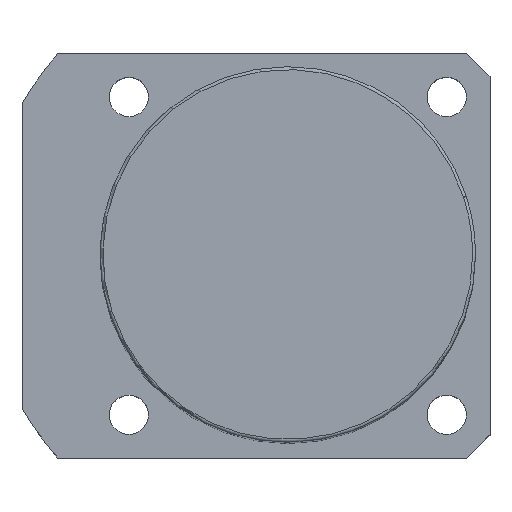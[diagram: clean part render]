
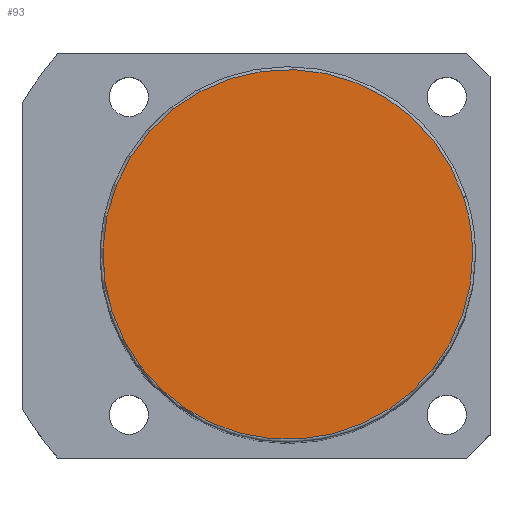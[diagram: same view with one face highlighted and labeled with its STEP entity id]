
A CAD part, top view. The second image highlights one B-rep face of the part: STEP entity #93.
In plain terms, the highlighted planar face has unit normal (0, 0, 1).
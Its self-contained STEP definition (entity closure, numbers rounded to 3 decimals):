
#16=CARTESIAN_POINT('',(30.434,9.889,151.0));
#17=VERTEX_POINT('',#16);
#45=CARTESIAN_POINT('',(-30.434,-9.889,151.0));
#46=VERTEX_POINT('',#45);
#54=CARTESIAN_POINT('',(0.0,0.0,151.0));
#55=DIRECTION('',(0.0,0.0,1.0));
#56=DIRECTION('',(1.0,0.0,0.0));
#57=AXIS2_PLACEMENT_3D('',#54,#55,#56);
#58=CIRCLE('',#57,32.0);
#59=EDGE_CURVE('no 890',#17,#46,#58,.T.);
#69=CARTESIAN_POINT('',(32.0,0.0,151.0));
#70=VERTEX_POINT('',#69);
#71=CARTESIAN_POINT('',(0.0,0.0,151.0));
#72=DIRECTION('',(0.0,0.0,1.0));
#73=DIRECTION('',(1.0,0.0,0.0));
#74=AXIS2_PLACEMENT_3D('',#71,#72,#73);
#75=CIRCLE('',#74,32.0);
#76=EDGE_CURVE('no 899',#70,#17,#75,.T.);
#77=ORIENTED_EDGE('',*,*,#76,.T.);
#78=ORIENTED_EDGE('',*,*,#59,.T.);
#79=CARTESIAN_POINT('',(0.0,0.0,151.0));
#80=DIRECTION('',(0.0,0.0,1.0));
#81=DIRECTION('',(1.0,0.0,0.0));
#82=AXIS2_PLACEMENT_3D('',#79,#80,#81);
#83=CIRCLE('',#82,32.0);
#84=EDGE_CURVE('no 905',#46,#70,#83,.T.);
#85=ORIENTED_EDGE('',*,*,#84,.T.);
#86=EDGE_LOOP('',(#77,#78,#85));
#87=FACE_OUTER_BOUND('',#86,.T.);
#88=CARTESIAN_POINT('',(0.0,0.0,151.0));
#89=DIRECTION('',(0.0,0.0,1.0));
#90=DIRECTION('',(1.0,0.0,0.0));
#91=AXIS2_PLACEMENT_3D('',#88,#89,#90);
#92=PLANE('',#91);
#93=ADVANCED_FACE('no 892',(#87),#92,.T.);
